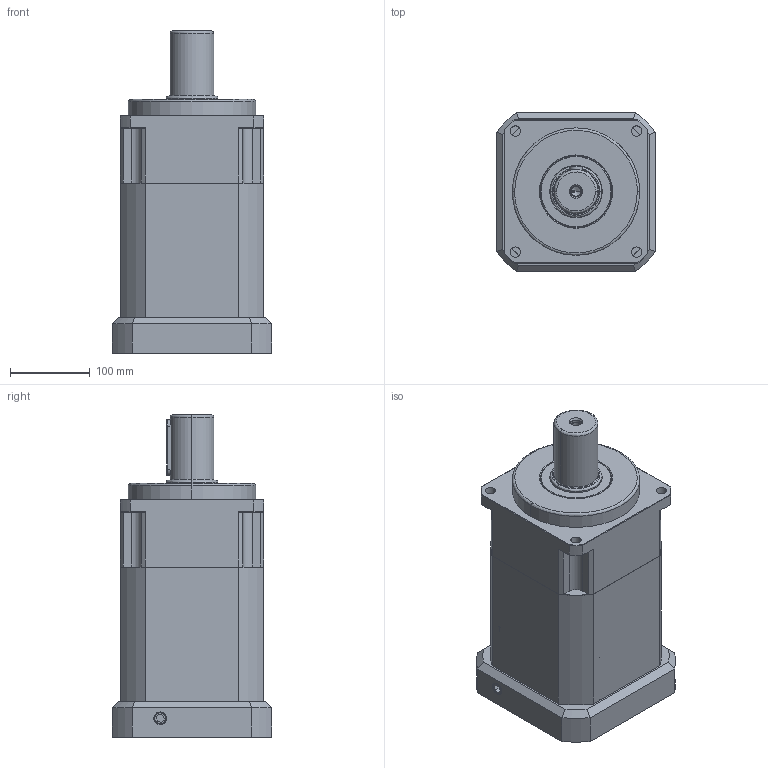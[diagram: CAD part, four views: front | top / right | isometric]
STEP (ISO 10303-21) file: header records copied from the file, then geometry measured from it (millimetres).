
FILE_DESCRIPTION (( 'STEP AP203' ), '1' );
FILE_NAME ('SB180A-2-114.3M12-2.step', '2019-12-16T07:05:07', ( 'lm1221' ), ( '' ), 'SwSTEP 2.0', 'SolidWorks 2017', '' );
FILE_SCHEMA (( 'CONFIG_CONTROL_DESIGN' ));
Length unit declared in the file: millimetre
Products named in the file (1): SB180A-2-114.3M12-2
Bounding box: 200 x 200 x 404.5 mm (x, y, z)
Volume: 7897361.5 mm3; surface area: 535833.4 mm2
Topology: 1 solids, 12 shells, 692 faces, 1681 edges, 1046 vertices
Faces by surface type: cylinder 281, plane 259, cone 120, bspline 32
Entity records: 23370 total; most frequent: CARTESIAN_POINT 6959, DIRECTION 3594, ORIENTED_EDGE 3306, EDGE_CURVE 1653, AXIS2_PLACEMENT_3D 1415, VERTEX_POINT 1046, EDGE_LOOP 775, LINE 764
